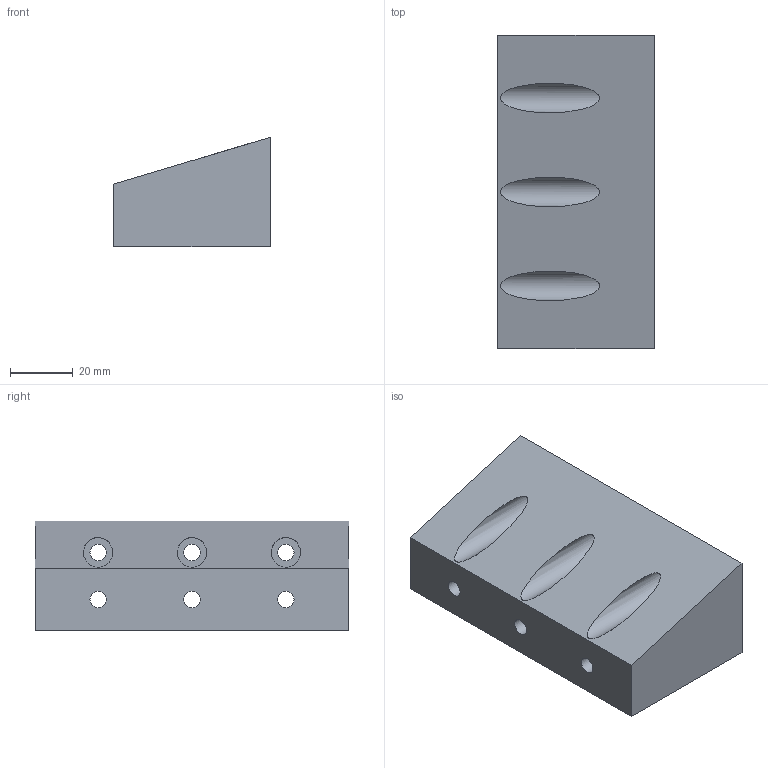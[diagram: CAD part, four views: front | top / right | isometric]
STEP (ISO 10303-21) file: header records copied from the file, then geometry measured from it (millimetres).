
FILE_DESCRIPTION(/* description */ ('STEP AP242','CAx-IF Rec.Pracs.---Representation and Presentation of Product Manufacturing Information (PMI)---4.0---2014-10-13','CAx-IF Rec.Pracs.---3D Tessellated Geometry---0.4---2014-09-14','2;1','CAx-IF Rec.Pracs.---User Defined Attributes---1.5---2016-08-15'),/* implementation_level */ '2;1');
FILE_NAME(/* name */ 'Full Assembly - Part 1 (1)',/* time_stamp */ '2025-11-03T04:00:12Z',/* author */ (''),/* organization */ (''),/* preprocessor_version */ 'ST-DEVELOPER v20',/* originating_system */ 'ONSHAPE BY PTC INC, 1.206',/* authorisation */ ' ');
FILE_SCHEMA (('AP242_MANAGED_MODEL_BASED_3D_ENGINEERING_MIM_LF { 1 0 10303 442 1 1 4 }'));
Length unit declared in the file: metre
Products named in the file (1): Part 1
Bounding box: 50 x 100 x 35 mm (x, y, z)
Volume: 123354 mm3; surface area: 24176.6 mm2
Topology: 1 solids, 1 shells, 24 faces, 54 edges, 38 vertices
Faces by surface type: plane 12, cylinder 12
Full cylindrical faces by diameter (mm): 5.2 x6, 9.5 x6
Entity records: 622 total; most frequent: DIRECTION 110, CARTESIAN_POINT 93, ORIENTED_EDGE 72, EDGE_LOOP 54, FACE_BOUND 54, AXIS2_PLACEMENT_3D 49, EDGE_CURVE 36, VERTEX_POINT 32
